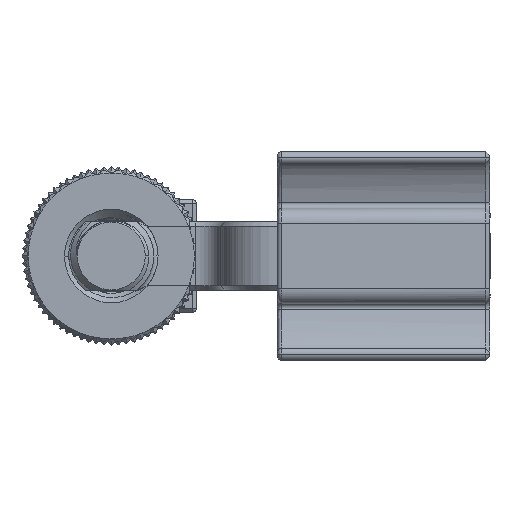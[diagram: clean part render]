
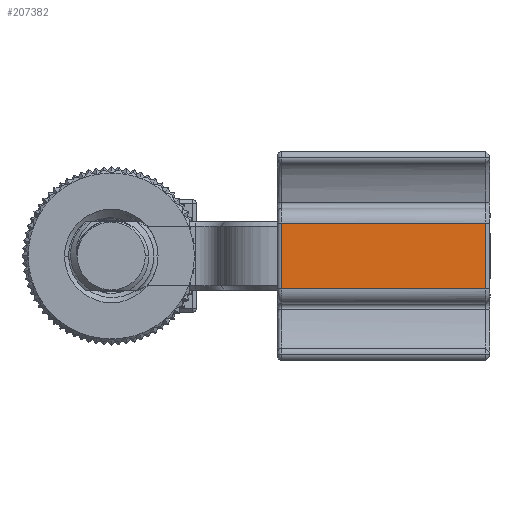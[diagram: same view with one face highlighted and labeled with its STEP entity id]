
A CAD part, front view. The second image highlights one B-rep face of the part: STEP entity #207382.
In plain terms, the highlighted planar face has unit normal (0.052, -0.999, 0) as drawn and (0, -0.999, -0.052) by its records, which use the part's own axes.
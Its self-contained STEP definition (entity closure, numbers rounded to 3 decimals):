
#820 = VECTOR ( 'NONE', #280306, 1000. ) ;
#3013 = VERTEX_POINT ( 'NONE', #262312 ) ;
#21352 = CARTESIAN_POINT ( 'NONE',  ( -7.75, -2.42, 50.948 ) ) ;
#21942 = VECTOR ( 'NONE', #162228, 1000. ) ;
#22231 = CARTESIAN_POINT ( 'NONE',  ( -69.015, -4.935, 98.948 ) ) ;
#32045 = VECTOR ( 'NONE', #282814, 1000. ) ;
#59889 = CARTESIAN_POINT ( 'NONE',  ( -7.75, -2.086, 44.587 ) ) ;
#85860 = FACE_OUTER_BOUND ( 'NONE', #145916, .T. ) ;
#88361 = ORIENTED_EDGE ( 'NONE', *, *, #264019, .F. ) ;
#95206 = EDGE_CURVE ( 'NONE', #315399, #3013, #309105, .T. ) ;
#123242 = CARTESIAN_POINT ( 'NONE',  ( -7.75, -2.42, 50.948 ) ) ;
#141409 = ORIENTED_EDGE ( 'NONE', *, *, #181043, .F. ) ;
#145916 = EDGE_LOOP ( 'NONE', ( #236608, #88361, #294002, #141409 ) ) ;
#148967 = VERTEX_POINT ( 'NONE', #172292 ) ;
#162228 = DIRECTION ( 'NONE',  ( 0., -0.052, 0.999 ) ) ;
#172292 = CARTESIAN_POINT ( 'NONE',  ( -7.75, -4.935, 98.948 ) ) ;
#181043 = EDGE_CURVE ( 'NONE', #148967, #315399, #326419, .T. ) ;
#207086 = CARTESIAN_POINT ( 'NONE',  ( -69.015, -2.086, 44.587 ) ) ;
#207382 = ADVANCED_FACE ( 'NONE', ( #85860 ), #208217, .F. ) ;
#208217 = PLANE ( 'NONE',  #326131 ) ;
#209343 = DIRECTION ( 'NONE',  ( 0., 0.999, 0.052 ) ) ;
#235736 = VECTOR ( 'NONE', #291773, 1000. ) ;
#236608 = ORIENTED_EDGE ( 'NONE', *, *, #289467, .F. ) ;
#253912 = LINE ( 'NONE', #59889, #21942 ) ;
#262312 = CARTESIAN_POINT ( 'NONE',  ( 7.75, -2.42, 50.948 ) ) ;
#264019 = EDGE_CURVE ( 'NONE', #3013, #295626, #288474, .T. ) ;
#273912 = CARTESIAN_POINT ( 'NONE',  ( 7.75, -4.935, 98.948 ) ) ;
#280306 = DIRECTION ( 'NONE',  ( 1., 0., 0. ) ) ;
#282814 = DIRECTION ( 'NONE',  ( -1., 0., 0. ) ) ;
#288474 = LINE ( 'NONE', #21352, #32045 ) ;
#289467 = EDGE_CURVE ( 'NONE', #295626, #148967, #253912, .T. ) ;
#291773 = DIRECTION ( 'NONE',  ( 0., 0.052, -0.999 ) ) ;
#294002 = ORIENTED_EDGE ( 'NONE', *, *, #95206, .F. ) ;
#295626 = VERTEX_POINT ( 'NONE', #123242 ) ;
#309105 = LINE ( 'NONE', #320181, #235736 ) ;
#315399 = VERTEX_POINT ( 'NONE', #273912 ) ;
#320181 = CARTESIAN_POINT ( 'NONE',  ( 7.75, -2.086, 44.587 ) ) ;
#326131 = AXIS2_PLACEMENT_3D ( 'NONE', #207086, #209343, #336664 ) ;
#326419 = LINE ( 'NONE', #22231, #820 ) ;
#336664 = DIRECTION ( 'NONE',  ( 0., 0.052, -0.999 ) ) ;
